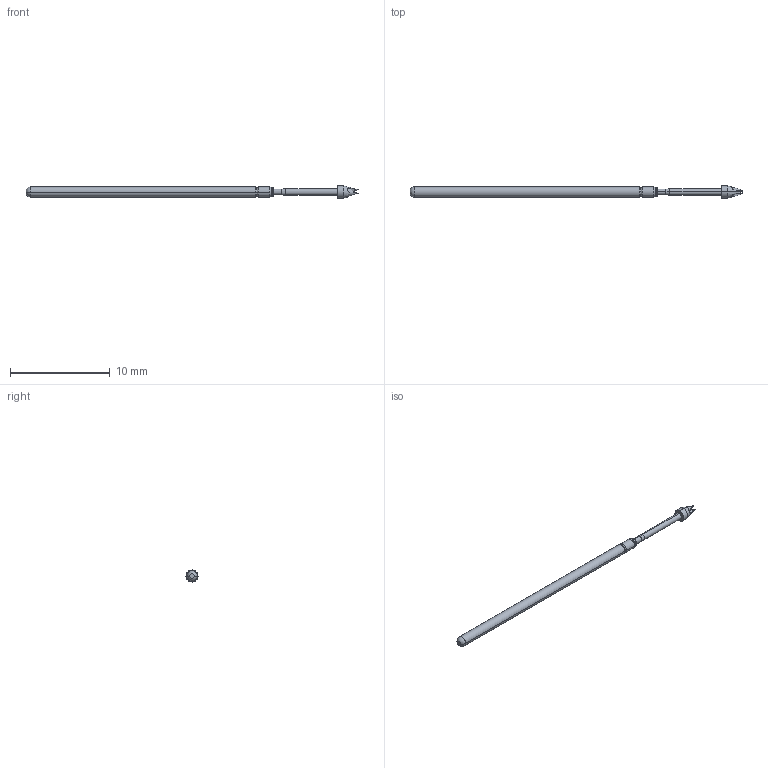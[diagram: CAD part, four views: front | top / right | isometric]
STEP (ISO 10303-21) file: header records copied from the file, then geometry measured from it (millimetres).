
FILE_DESCRIPTION (( 'STEP AP203' ), '1' );
FILE_NAME ('101024-032-922 (REST).STEP', '2022-11-18T09:47:33', ( '' ), ( '' ), 'SwSTEP 2.0', 'SolidWorks 2022', '' );
FILE_SCHEMA (( 'CONFIG_CONTROL_DESIGN' ));
Length unit declared in the file: inch
Products named in the file (1): 101024-032-922 (REST)
Bounding box: 33.27 x 1.22 x 1.22 mm (x, y, z)
Volume: 23.5 mm3; surface area: 99.9 mm2
Topology: 1 solids, 1 shells, 59 faces, 135 edges, 82 vertices
Faces by surface type: plane 28, cone 13, cylinder 12, torus 6
Entity records: 1827 total; most frequent: CARTESIAN_POINT 467, ORIENTED_EDGE 266, DIRECTION 264, EDGE_CURVE 133, AXIS2_PLACEMENT_3D 106, VERTEX_POINT 82, EDGE_LOOP 65, FACE_OUTER_BOUND 59
